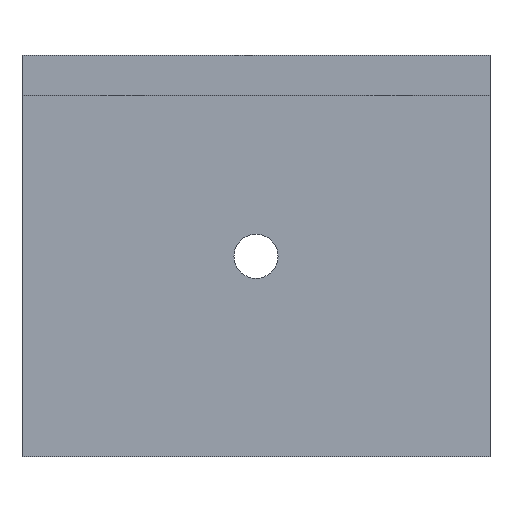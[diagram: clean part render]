
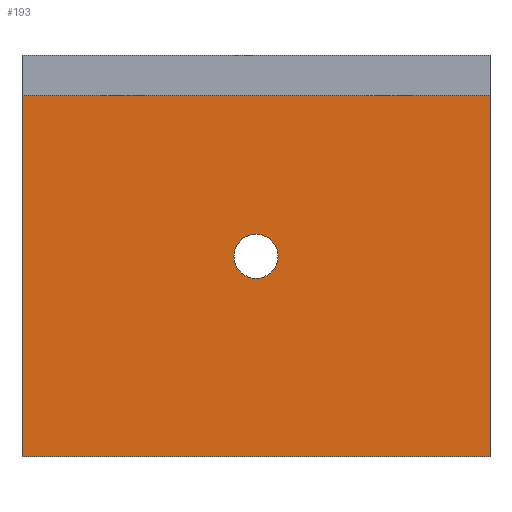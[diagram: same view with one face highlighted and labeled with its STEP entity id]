
A CAD part, top view. The second image highlights one B-rep face of the part: STEP entity #193.
In plain terms, the highlighted planar face has unit normal (0, 0, 1).
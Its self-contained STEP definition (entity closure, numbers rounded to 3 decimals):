
#21 = EDGE_CURVE('',#22,#24,#26,.T.);
#22 = VERTEX_POINT('',#23);
#23 = CARTESIAN_POINT('',(-35.,-30.,6.));
#24 = VERTEX_POINT('',#25);
#25 = CARTESIAN_POINT('',(-35.,24.,6.));
#26 = SURFACE_CURVE('',#27,(#31,#43),.PCURVE_S1.);
#27 = LINE('',#28,#29);
#28 = CARTESIAN_POINT('',(-35.,-30.,6.));
#29 = VECTOR('',#30,1.);
#30 = DIRECTION('',(0.,1.,0.));
#31 = PCURVE('',#32,#37);
#32 = PLANE('',#33);
#33 = AXIS2_PLACEMENT_3D('',#34,#35,#36);
#34 = CARTESIAN_POINT('',(-35.,-30.,0.));
#35 = DIRECTION('',(1.,0.,0.));
#36 = DIRECTION('',(0.,0.,1.));
#37 = DEFINITIONAL_REPRESENTATION('',(#38),#42);
#38 = LINE('',#39,#40);
#39 = CARTESIAN_POINT('',(6.,0.));
#40 = VECTOR('',#41,1.);
#41 = DIRECTION('',(0.,-1.));
#42 = ( GEOMETRIC_REPRESENTATION_CONTEXT(2) 
PARAMETRIC_REPRESENTATION_CONTEXT() REPRESENTATION_CONTEXT('2D SPACE',''
  ) );
#43 = PCURVE('',#44,#49);
#44 = PLANE('',#45);
#45 = AXIS2_PLACEMENT_3D('',#46,#47,#48);
#46 = CARTESIAN_POINT('',(-35.,-30.,6.));
#47 = DIRECTION('',(0.,0.,1.));
#48 = DIRECTION('',(1.,0.,0.));
#49 = DEFINITIONAL_REPRESENTATION('',(#50),#54);
#50 = LINE('',#51,#52);
#51 = CARTESIAN_POINT('',(0.,0.));
#52 = VECTOR('',#53,1.);
#53 = DIRECTION('',(0.,1.));
#54 = ( GEOMETRIC_REPRESENTATION_CONTEXT(2) 
PARAMETRIC_REPRESENTATION_CONTEXT() REPRESENTATION_CONTEXT('2D SPACE',''
  ) );
#72 = PLANE('',#73);
#73 = AXIS2_PLACEMENT_3D('',#74,#75,#76);
#74 = CARTESIAN_POINT('',(-35.,-30.,0.));
#75 = DIRECTION('',(0.,1.,0.));
#76 = DIRECTION('',(0.,0.,1.));
#182 = PLANE('',#183);
#183 = AXIS2_PLACEMENT_3D('',#184,#185,#186);
#184 = CARTESIAN_POINT('',(-35.,24.,0.));
#185 = DIRECTION('',(0.,1.,0.));
#186 = DIRECTION('',(0.,0.,1.));
#193 = ADVANCED_FACE('',(#194,#269),#44,.T.);
#194 = FACE_BOUND('',#195,.T.);
#195 = EDGE_LOOP('',(#196,#197,#220,#248));
#196 = ORIENTED_EDGE('',*,*,#21,.F.);
#197 = ORIENTED_EDGE('',*,*,#198,.T.);
#198 = EDGE_CURVE('',#22,#199,#201,.T.);
#199 = VERTEX_POINT('',#200);
#200 = CARTESIAN_POINT('',(35.,-30.,6.));
#201 = SURFACE_CURVE('',#202,(#206,#213),.PCURVE_S1.);
#202 = LINE('',#203,#204);
#203 = CARTESIAN_POINT('',(-35.,-30.,6.));
#204 = VECTOR('',#205,1.);
#205 = DIRECTION('',(1.,0.,0.));
#206 = PCURVE('',#44,#207);
#207 = DEFINITIONAL_REPRESENTATION('',(#208),#212);
#208 = LINE('',#209,#210);
#209 = CARTESIAN_POINT('',(0.,0.));
#210 = VECTOR('',#211,1.);
#211 = DIRECTION('',(1.,0.));
#212 = ( GEOMETRIC_REPRESENTATION_CONTEXT(2) 
PARAMETRIC_REPRESENTATION_CONTEXT() REPRESENTATION_CONTEXT('2D SPACE',''
  ) );
#213 = PCURVE('',#72,#214);
#214 = DEFINITIONAL_REPRESENTATION('',(#215),#219);
#215 = LINE('',#216,#217);
#216 = CARTESIAN_POINT('',(6.,0.));
#217 = VECTOR('',#218,1.);
#218 = DIRECTION('',(0.,1.));
#219 = ( GEOMETRIC_REPRESENTATION_CONTEXT(2) 
PARAMETRIC_REPRESENTATION_CONTEXT() REPRESENTATION_CONTEXT('2D SPACE',''
  ) );
#220 = ORIENTED_EDGE('',*,*,#221,.T.);
#221 = EDGE_CURVE('',#199,#222,#224,.T.);
#222 = VERTEX_POINT('',#223);
#223 = CARTESIAN_POINT('',(35.,24.,6.));
#224 = SURFACE_CURVE('',#225,(#229,#236),.PCURVE_S1.);
#225 = LINE('',#226,#227);
#226 = CARTESIAN_POINT('',(35.,-30.,6.));
#227 = VECTOR('',#228,1.);
#228 = DIRECTION('',(0.,1.,0.));
#229 = PCURVE('',#44,#230);
#230 = DEFINITIONAL_REPRESENTATION('',(#231),#235);
#231 = LINE('',#232,#233);
#232 = CARTESIAN_POINT('',(70.,0.));
#233 = VECTOR('',#234,1.);
#234 = DIRECTION('',(0.,1.));
#235 = ( GEOMETRIC_REPRESENTATION_CONTEXT(2) 
PARAMETRIC_REPRESENTATION_CONTEXT() REPRESENTATION_CONTEXT('2D SPACE',''
  ) );
#236 = PCURVE('',#237,#242);
#237 = PLANE('',#238);
#238 = AXIS2_PLACEMENT_3D('',#239,#240,#241);
#239 = CARTESIAN_POINT('',(35.,-30.,0.));
#240 = DIRECTION('',(1.,0.,0.));
#241 = DIRECTION('',(0.,0.,1.));
#242 = DEFINITIONAL_REPRESENTATION('',(#243),#247);
#243 = LINE('',#244,#245);
#244 = CARTESIAN_POINT('',(6.,0.));
#245 = VECTOR('',#246,1.);
#246 = DIRECTION('',(0.,-1.));
#247 = ( GEOMETRIC_REPRESENTATION_CONTEXT(2) 
PARAMETRIC_REPRESENTATION_CONTEXT() REPRESENTATION_CONTEXT('2D SPACE',''
  ) );
#248 = ORIENTED_EDGE('',*,*,#249,.T.);
#249 = EDGE_CURVE('',#222,#24,#250,.T.);
#250 = SURFACE_CURVE('',#251,(#255,#262),.PCURVE_S1.);
#251 = LINE('',#252,#253);
#252 = CARTESIAN_POINT('',(-35.,24.,6.));
#253 = VECTOR('',#254,1.);
#254 = DIRECTION('',(-1.,0.,0.));
#255 = PCURVE('',#44,#256);
#256 = DEFINITIONAL_REPRESENTATION('',(#257),#261);
#257 = LINE('',#258,#259);
#258 = CARTESIAN_POINT('',(0.,54.));
#259 = VECTOR('',#260,1.);
#260 = DIRECTION('',(-1.,0.));
#261 = ( GEOMETRIC_REPRESENTATION_CONTEXT(2) 
PARAMETRIC_REPRESENTATION_CONTEXT() REPRESENTATION_CONTEXT('2D SPACE',''
  ) );
#262 = PCURVE('',#182,#263);
#263 = DEFINITIONAL_REPRESENTATION('',(#264),#268);
#264 = LINE('',#265,#266);
#265 = CARTESIAN_POINT('',(6.,0.));
#266 = VECTOR('',#267,1.);
#267 = DIRECTION('',(0.,-1.));
#268 = ( GEOMETRIC_REPRESENTATION_CONTEXT(2) 
PARAMETRIC_REPRESENTATION_CONTEXT() REPRESENTATION_CONTEXT('2D SPACE',''
  ) );
#269 = FACE_BOUND('',#270,.T.);
#270 = EDGE_LOOP('',(#271));
#271 = ORIENTED_EDGE('',*,*,#272,.T.);
#272 = EDGE_CURVE('',#273,#273,#275,.T.);
#273 = VERTEX_POINT('',#274);
#274 = CARTESIAN_POINT('',(3.3,0.,6.));
#275 = SURFACE_CURVE('',#276,(#281,#292),.PCURVE_S1.);
#276 = CIRCLE('',#277,3.3);
#277 = AXIS2_PLACEMENT_3D('',#278,#279,#280);
#278 = CARTESIAN_POINT('',(0.,0.,6.));
#279 = DIRECTION('',(0.,0.,-1.));
#280 = DIRECTION('',(1.,0.,0.));
#281 = PCURVE('',#44,#282);
#282 = DEFINITIONAL_REPRESENTATION('',(#283),#291);
#283 = ( BOUNDED_CURVE() B_SPLINE_CURVE(2,(#284,#285,#286,#287,#288,#289
,#290),.UNSPECIFIED.,.T.,.F.) B_SPLINE_CURVE_WITH_KNOTS((1,2,2,2,2,1),(
    -2.094,0.,2.094,4.189,6.283,
8.378),.UNSPECIFIED.) CURVE() GEOMETRIC_REPRESENTATION_ITEM() 
RATIONAL_B_SPLINE_CURVE((1.,0.5,1.,0.5,1.,0.5,1.)) REPRESENTATION_ITEM(
  '') );
#284 = CARTESIAN_POINT('',(38.3,30.));
#285 = CARTESIAN_POINT('',(38.3,24.284));
#286 = CARTESIAN_POINT('',(33.35,27.142));
#287 = CARTESIAN_POINT('',(28.4,30.));
#288 = CARTESIAN_POINT('',(33.35,32.858));
#289 = CARTESIAN_POINT('',(38.3,35.716));
#290 = CARTESIAN_POINT('',(38.3,30.));
#291 = ( GEOMETRIC_REPRESENTATION_CONTEXT(2) 
PARAMETRIC_REPRESENTATION_CONTEXT() REPRESENTATION_CONTEXT('2D SPACE',''
  ) );
#292 = PCURVE('',#293,#298);
#293 = CYLINDRICAL_SURFACE('',#294,3.3);
#294 = AXIS2_PLACEMENT_3D('',#295,#296,#297);
#295 = CARTESIAN_POINT('',(0.,0.,-1.));
#296 = DIRECTION('',(-0.,-0.,-1.));
#297 = DIRECTION('',(1.,0.,0.));
#298 = DEFINITIONAL_REPRESENTATION('',(#299),#303);
#299 = LINE('',#300,#301);
#300 = CARTESIAN_POINT('',(-6.283,-7.));
#301 = VECTOR('',#302,1.);
#302 = DIRECTION('',(1.,-0.));
#303 = ( GEOMETRIC_REPRESENTATION_CONTEXT(2) 
PARAMETRIC_REPRESENTATION_CONTEXT() REPRESENTATION_CONTEXT('2D SPACE',''
  ) );
